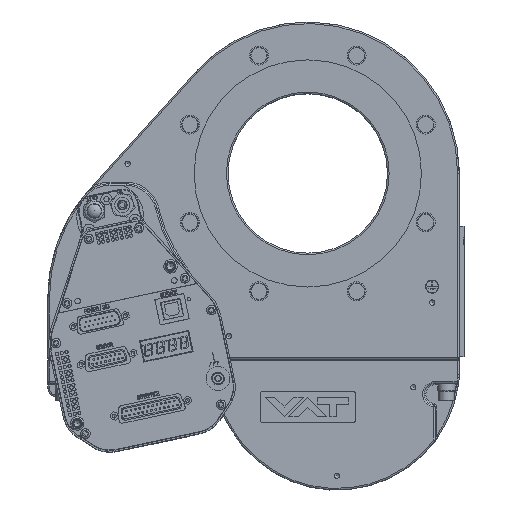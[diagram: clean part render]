
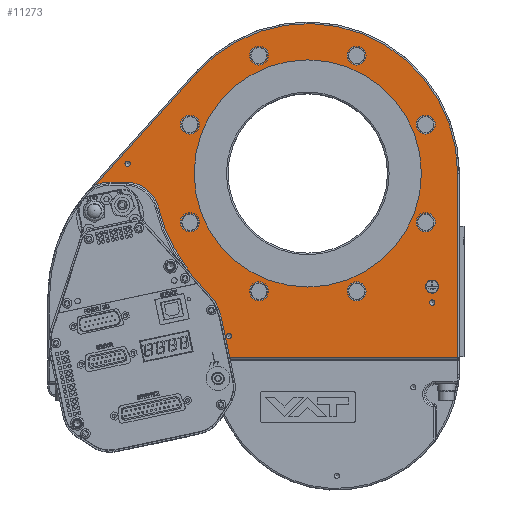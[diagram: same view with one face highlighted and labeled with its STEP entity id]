
A CAD part, top view. The second image highlights one B-rep face of the part: STEP entity #11273.
In plain terms, the highlighted planar face has unit normal (0, 0, 1).
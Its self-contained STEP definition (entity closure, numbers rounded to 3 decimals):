
#7809=FACE_BOUND('',#16194,.T.);
#7810=FACE_BOUND('',#16195,.T.);
#7811=FACE_BOUND('',#16196,.T.);
#7812=FACE_BOUND('',#16197,.T.);
#7813=FACE_BOUND('',#16198,.T.);
#7814=FACE_BOUND('',#16199,.T.);
#7815=FACE_BOUND('',#16200,.T.);
#7816=FACE_BOUND('',#16201,.T.);
#7817=FACE_BOUND('',#16202,.T.);
#7818=FACE_BOUND('',#16203,.T.);
#7819=FACE_BOUND('',#16204,.T.);
#7820=FACE_BOUND('',#16205,.T.);
#7821=FACE_BOUND('',#16206,.T.);
#7822=FACE_BOUND('',#16207,.T.);
#7823=FACE_BOUND('',#16208,.T.);
#11273=ADVANCED_FACE('',(#7809,#7810,#7811,#7812,#7813,#7814,#7815,#7816,
#7817,#7818,#7819,#7820,#7821,#7822,#7823),#13338,.F.);
#13338=PLANE('',#44866);
#16194=EDGE_LOOP('',(#21550));
#16195=EDGE_LOOP('',(#21551,#21552,#21553,#21554,#21555,#21556,#21557,#21558,
#21559,#21560));
#16196=EDGE_LOOP('',(#21561));
#16197=EDGE_LOOP('',(#21562));
#16198=EDGE_LOOP('',(#21563));
#16199=EDGE_LOOP('',(#21564));
#16200=EDGE_LOOP('',(#21565));
#16201=EDGE_LOOP('',(#21566));
#16202=EDGE_LOOP('',(#21567));
#16203=EDGE_LOOP('',(#21568));
#16204=EDGE_LOOP('',(#21569));
#16205=EDGE_LOOP('',(#21570));
#16206=EDGE_LOOP('',(#21571));
#16207=EDGE_LOOP('',(#21572));
#16208=EDGE_LOOP('',(#21573));
#19505=CIRCLE('',#44800,4.1);
#19511=CIRCLE('',#44809,71.25);
#19542=CIRCLE('',#44849,94.);
#19543=CIRCLE('',#44850,21.);
#19544=CIRCLE('',#44851,21.);
#19545=CIRCLE('',#44852,96.);
#19546=CIRCLE('',#44853,21.);
#19547=CIRCLE('',#44854,1.65);
#19548=CIRCLE('',#44855,1.65);
#19549=CIRCLE('',#44856,1.65);
#19550=CIRCLE('',#44857,1.5);
#19551=CIRCLE('',#44858,5.25);
#19552=CIRCLE('',#44859,5.25);
#19553=CIRCLE('',#44860,5.25);
#19554=CIRCLE('',#44861,5.25);
#19555=CIRCLE('',#44862,5.25);
#19556=CIRCLE('',#44863,5.25);
#19557=CIRCLE('',#44864,5.25);
#19558=CIRCLE('',#44865,5.25);
#21550=ORIENTED_EDGE('',*,*,#34609,.F.);
#21551=ORIENTED_EDGE('',*,*,#34679,.T.);
#21552=ORIENTED_EDGE('',*,*,#34680,.T.);
#21553=ORIENTED_EDGE('',*,*,#34681,.T.);
#21554=ORIENTED_EDGE('',*,*,#34682,.T.);
#21555=ORIENTED_EDGE('',*,*,#34683,.T.);
#21556=ORIENTED_EDGE('',*,*,#34684,.T.);
#21557=ORIENTED_EDGE('',*,*,#34685,.T.);
#21558=ORIENTED_EDGE('',*,*,#34686,.T.);
#21559=ORIENTED_EDGE('',*,*,#34687,.T.);
#21560=ORIENTED_EDGE('',*,*,#34688,.T.);
#21561=ORIENTED_EDGE('',*,*,#34616,.F.);
#21562=ORIENTED_EDGE('',*,*,#34689,.T.);
#21563=ORIENTED_EDGE('',*,*,#34690,.T.);
#21564=ORIENTED_EDGE('',*,*,#34691,.T.);
#21565=ORIENTED_EDGE('',*,*,#34692,.T.);
#21566=ORIENTED_EDGE('',*,*,#34693,.T.);
#21567=ORIENTED_EDGE('',*,*,#34694,.T.);
#21568=ORIENTED_EDGE('',*,*,#34695,.T.);
#21569=ORIENTED_EDGE('',*,*,#34696,.T.);
#21570=ORIENTED_EDGE('',*,*,#34697,.T.);
#21571=ORIENTED_EDGE('',*,*,#34698,.T.);
#21572=ORIENTED_EDGE('',*,*,#34699,.T.);
#21573=ORIENTED_EDGE('',*,*,#34700,.T.);
#30846=VERTEX_POINT('',#59173);
#30853=VERTEX_POINT('',#59190);
#30910=VERTEX_POINT('',#59364);
#30911=VERTEX_POINT('',#59365);
#30912=VERTEX_POINT('',#59367);
#30913=VERTEX_POINT('',#59369);
#30914=VERTEX_POINT('',#59371);
#30915=VERTEX_POINT('',#59373);
#30916=VERTEX_POINT('',#59375);
#30917=VERTEX_POINT('',#59377);
#30918=VERTEX_POINT('',#59379);
#30919=VERTEX_POINT('',#59381);
#30920=VERTEX_POINT('',#59384);
#30921=VERTEX_POINT('',#59386);
#30922=VERTEX_POINT('',#59388);
#30923=VERTEX_POINT('',#59390);
#30924=VERTEX_POINT('',#59392);
#30925=VERTEX_POINT('',#59394);
#30926=VERTEX_POINT('',#59396);
#30927=VERTEX_POINT('',#59398);
#30928=VERTEX_POINT('',#59400);
#30929=VERTEX_POINT('',#59402);
#30930=VERTEX_POINT('',#59404);
#30931=VERTEX_POINT('',#59406);
#34609=EDGE_CURVE('',#30846,#30846,#19505,.T.);
#34616=EDGE_CURVE('',#30853,#30853,#19511,.T.);
#34679=EDGE_CURVE('',#30910,#30911,#39329,.T.);
#34680=EDGE_CURVE('',#30911,#30912,#39330,.T.);
#34681=EDGE_CURVE('',#30912,#30913,#19542,.T.);
#34682=EDGE_CURVE('',#30913,#30914,#39331,.T.);
#34683=EDGE_CURVE('',#30914,#30915,#19543,.T.);
#34684=EDGE_CURVE('',#30915,#30916,#39332,.T.);
#34685=EDGE_CURVE('',#30916,#30917,#19544,.T.);
#34686=EDGE_CURVE('',#30917,#30918,#19545,.T.);
#34687=EDGE_CURVE('',#30918,#30919,#19546,.T.);
#34688=EDGE_CURVE('',#30919,#30910,#39333,.T.);
#34689=EDGE_CURVE('',#30920,#30920,#19547,.T.);
#34690=EDGE_CURVE('',#30921,#30921,#19548,.T.);
#34691=EDGE_CURVE('',#30922,#30922,#19549,.T.);
#34692=EDGE_CURVE('',#30923,#30923,#19550,.T.);
#34693=EDGE_CURVE('',#30924,#30924,#19551,.T.);
#34694=EDGE_CURVE('',#30925,#30925,#19552,.T.);
#34695=EDGE_CURVE('',#30926,#30926,#19553,.T.);
#34696=EDGE_CURVE('',#30927,#30927,#19554,.T.);
#34697=EDGE_CURVE('',#30928,#30928,#19555,.T.);
#34698=EDGE_CURVE('',#30929,#30929,#19556,.T.);
#34699=EDGE_CURVE('',#30930,#30930,#19557,.T.);
#34700=EDGE_CURVE('',#30931,#30931,#19558,.T.);
#39329=LINE('',#59363,#41912);
#39330=LINE('',#59366,#41913);
#39331=LINE('',#59370,#41914);
#39332=LINE('',#59374,#41915);
#39333=LINE('',#59382,#41916);
#41912=VECTOR('',#49106,1.);
#41913=VECTOR('',#49107,1.);
#41914=VECTOR('',#49110,1.);
#41915=VECTOR('',#49113,1.);
#41916=VECTOR('',#49120,1.);
#44800=AXIS2_PLACEMENT_3D('',#59172,#48981,#48982);
#44809=AXIS2_PLACEMENT_3D('',#59189,#49000,#49001);
#44849=AXIS2_PLACEMENT_3D('',#59368,#49108,#49109);
#44850=AXIS2_PLACEMENT_3D('',#59372,#49111,#49112);
#44851=AXIS2_PLACEMENT_3D('',#59376,#49114,#49115);
#44852=AXIS2_PLACEMENT_3D('',#59378,#49116,#49117);
#44853=AXIS2_PLACEMENT_3D('',#59380,#49118,#49119);
#44854=AXIS2_PLACEMENT_3D('',#59383,#49121,#49122);
#44855=AXIS2_PLACEMENT_3D('',#59385,#49123,#49124);
#44856=AXIS2_PLACEMENT_3D('',#59387,#49125,#49126);
#44857=AXIS2_PLACEMENT_3D('',#59389,#49127,#49128);
#44858=AXIS2_PLACEMENT_3D('',#59391,#49129,#49130);
#44859=AXIS2_PLACEMENT_3D('',#59393,#49131,#49132);
#44860=AXIS2_PLACEMENT_3D('',#59395,#49133,#49134);
#44861=AXIS2_PLACEMENT_3D('',#59397,#49135,#49136);
#44862=AXIS2_PLACEMENT_3D('',#59399,#49137,#49138);
#44863=AXIS2_PLACEMENT_3D('',#59401,#49139,#49140);
#44864=AXIS2_PLACEMENT_3D('',#59403,#49141,#49142);
#44865=AXIS2_PLACEMENT_3D('',#59405,#49143,#49144);
#44866=AXIS2_PLACEMENT_3D('',#59407,#49145,#49146);
#48981=DIRECTION('',(0.,0.,1.));
#48982=DIRECTION('',(-1.,0.,0.));
#49000=DIRECTION('',(0.,0.,1.));
#49001=DIRECTION('',(-1.,0.,0.));
#49106=DIRECTION('',(1.,0.,0.));
#49107=DIRECTION('',(0.,1.,0.));
#49108=DIRECTION('',(0.,0.,1.));
#49109=DIRECTION('',(-1.,0.,0.));
#49110=DIRECTION('',(-0.669,-0.743,0.));
#49111=DIRECTION('',(0.,0.,-1.));
#49112=DIRECTION('',(-1.,0.,0.));
#49113=DIRECTION('',(1.,0.,0.));
#49114=DIRECTION('',(0.,0.,-1.));
#49115=DIRECTION('',(-1.,0.,0.));
#49116=DIRECTION('',(0.,0.,1.));
#49117=DIRECTION('',(-1.,0.,0.));
#49118=DIRECTION('',(0.,0.,-1.));
#49119=DIRECTION('',(-1.,0.,0.));
#49120=DIRECTION('',(0.,-1.,0.));
#49121=DIRECTION('',(0.,0.,-1.));
#49122=DIRECTION('',(-1.,0.,0.));
#49123=DIRECTION('',(0.,0.,-1.));
#49124=DIRECTION('',(-1.,0.,0.));
#49125=DIRECTION('',(0.,0.,-1.));
#49126=DIRECTION('',(-1.,0.,0.));
#49127=DIRECTION('',(0.,0.,-1.));
#49128=DIRECTION('',(-1.,0.,0.));
#49129=DIRECTION('',(0.,0.,-1.));
#49130=DIRECTION('',(-1.,0.,0.));
#49131=DIRECTION('',(0.,0.,-1.));
#49132=DIRECTION('',(-1.,0.,0.));
#49133=DIRECTION('',(0.,0.,-1.));
#49134=DIRECTION('',(-1.,0.,0.));
#49135=DIRECTION('',(0.,0.,-1.));
#49136=DIRECTION('',(-1.,0.,0.));
#49137=DIRECTION('',(0.,0.,-1.));
#49138=DIRECTION('',(-1.,0.,0.));
#49139=DIRECTION('',(0.,0.,-1.));
#49140=DIRECTION('',(-1.,0.,0.));
#49141=DIRECTION('',(0.,0.,-1.));
#49142=DIRECTION('',(-1.,0.,0.));
#49143=DIRECTION('',(0.,0.,-1.));
#49144=DIRECTION('',(-1.,0.,0.));
#49145=DIRECTION('',(0.,0.,-1.));
#49146=DIRECTION('',(-1.,0.,0.));
#59172=CARTESIAN_POINT('',(78.,-71.,100.));
#59173=CARTESIAN_POINT('',(73.9,-71.,100.));
#59189=CARTESIAN_POINT('',(0.,0.,100.));
#59190=CARTESIAN_POINT('',(-71.25,0.,100.));
#59363=CARTESIAN_POINT('',(-62.95,-115.5,100.));
#59364=CARTESIAN_POINT('',(-72.4,-115.5,100.));
#59365=CARTESIAN_POINT('',(94.,-115.5,100.));
#59366=CARTESIAN_POINT('',(94.,-77.385,100.));
#59367=CARTESIAN_POINT('',(94.,0.,100.));
#59368=CARTESIAN_POINT('',(0.,0.,100.));
#59369=CARTESIAN_POINT('',(-69.856,62.898,100.));
#59370=CARTESIAN_POINT('',(-136.521,-11.142,100.));
#59371=CARTESIAN_POINT('',(-132.982,-7.21,100.));
#59372=CARTESIAN_POINT('',(-124.681,-26.5,100.));
#59373=CARTESIAN_POINT('',(-124.681,-5.5,100.));
#59374=CARTESIAN_POINT('',(-62.95,-5.5,100.));
#59375=CARTESIAN_POINT('',(-113.959,-5.5,100.));
#59376=CARTESIAN_POINT('',(-113.959,-26.5,100.));
#59377=CARTESIAN_POINT('',(-93.505,-21.744,100.));
#59378=CARTESIAN_POINT('',(0.,0.,100.));
#59379=CARTESIAN_POINT('',(-76.636,-57.818,100.));
#59380=CARTESIAN_POINT('',(-93.4,-70.466,100.));
#59381=CARTESIAN_POINT('',(-72.4,-70.466,100.));
#59382=CARTESIAN_POINT('',(-72.4,-77.385,100.));
#59383=CARTESIAN_POINT('',(-49.5,-102.,100.));
#59384=CARTESIAN_POINT('',(-51.15,-102.,100.));
#59385=CARTESIAN_POINT('',(78.,-81.,100.));
#59386=CARTESIAN_POINT('',(76.35,-81.,100.));
#59387=CARTESIAN_POINT('',(-113.,6.,100.));
#59388=CARTESIAN_POINT('',(-114.65,6.,100.));
#59389=CARTESIAN_POINT('',(-56.,-94.,100.));
#59390=CARTESIAN_POINT('',(-57.5,-94.,100.));
#59391=CARTESIAN_POINT('',(73.91,30.615,100.));
#59392=CARTESIAN_POINT('',(68.66,30.615,100.));
#59393=CARTESIAN_POINT('',(73.91,-30.615,100.));
#59394=CARTESIAN_POINT('',(68.66,-30.615,100.));
#59395=CARTESIAN_POINT('',(30.615,73.91,100.));
#59396=CARTESIAN_POINT('',(25.365,73.91,100.));
#59397=CARTESIAN_POINT('',(30.615,-73.91,100.));
#59398=CARTESIAN_POINT('',(25.365,-73.91,100.));
#59399=CARTESIAN_POINT('',(-30.615,73.91,100.));
#59400=CARTESIAN_POINT('',(-35.865,73.91,100.));
#59401=CARTESIAN_POINT('',(-30.615,-73.91,100.));
#59402=CARTESIAN_POINT('',(-35.865,-73.91,100.));
#59403=CARTESIAN_POINT('',(-73.91,30.615,100.));
#59404=CARTESIAN_POINT('',(-79.16,30.615,100.));
#59405=CARTESIAN_POINT('',(-73.91,-30.615,100.));
#59406=CARTESIAN_POINT('',(-79.16,-30.615,100.));
#59407=CARTESIAN_POINT('',(-62.95,-77.385,100.));
